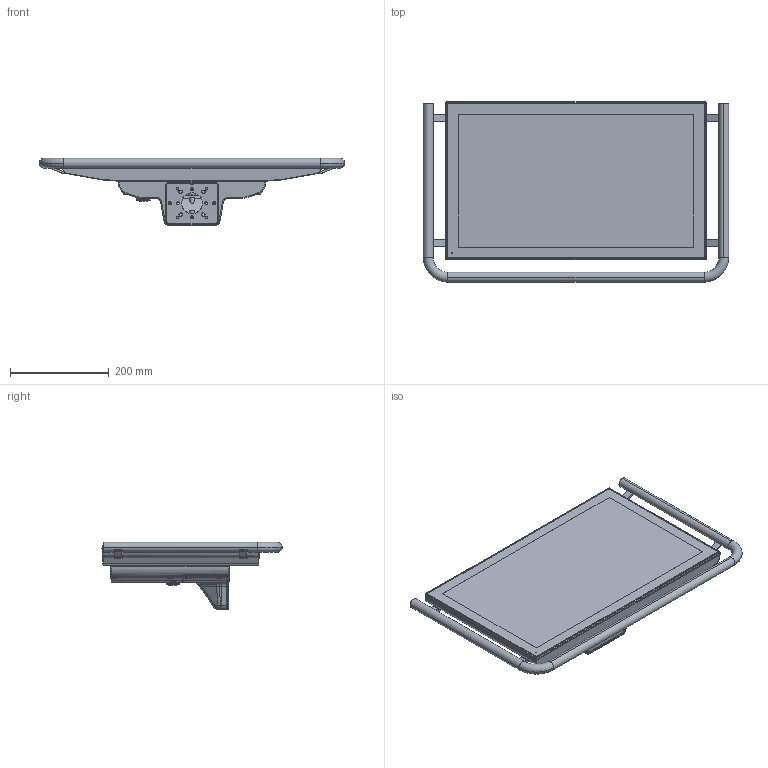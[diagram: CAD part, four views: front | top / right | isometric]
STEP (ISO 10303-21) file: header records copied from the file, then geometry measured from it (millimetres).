
FILE_DESCRIPTION (( 'STEP AP214' ), '1' );
FILE_NAME ('vk3500_215_bottom_maniglione_usbpost.STEP', '2022-03-08T15:55:43', ( '' ), ( '' ), 'SwSTEP 2.0', 'SolidWorks 2021', '' );
FILE_SCHEMA (( 'AUTOMOTIVE_DESIGN' ));
Length unit declared in the file: millimetre
Products named in the file (15): 69111021; 50342037; 60290002; 55688012; 66811015; 56236060; 56202009; 56600624; ________________________________________^00_d18201915; kit_posteriore_arm_usb3; 57836056_Default<A macchina>; 56636883; 55600028; vk3500_215_bottom_maniglione_usbpost; 56600541
Assembly tree (29 placements, depth 4):
  ________________________________________^00_d18201915
  vk3500_215_bottom_maniglione_usbpost
    56600624
      56600541
        56636883
        50342037
      55600028
        55688012
    57836056_Default<A macchina>
    56202009  x4
    66811015  x8
    69111021  x4
    60290002  x4
    56236060
    kit_posteriore_arm_usb3
Bounding box: 619.5 x 365.58 x 136.82 mm (x, y, z)
Volume: 1589265.4 mm3; surface area: 1103501.2 mm2
Topology: 33 solids, 65 shells, 3853 faces, 9423 edges, 5754 vertices
Faces by surface type: cylinder 1334, plane 1062, cone 726, bspline 508, torus 177, sphere 46
Entity records: 162479 total; most frequent: CARTESIAN_POINT 60828, ORIENTED_EDGE 16136, DIRECTION 15591, EDGE_CURVE 8082, AXIS2_PLACEMENT_3D 6077, VERTEX_POINT 4952, EDGE_LOOP 3664, VECTOR 3437
